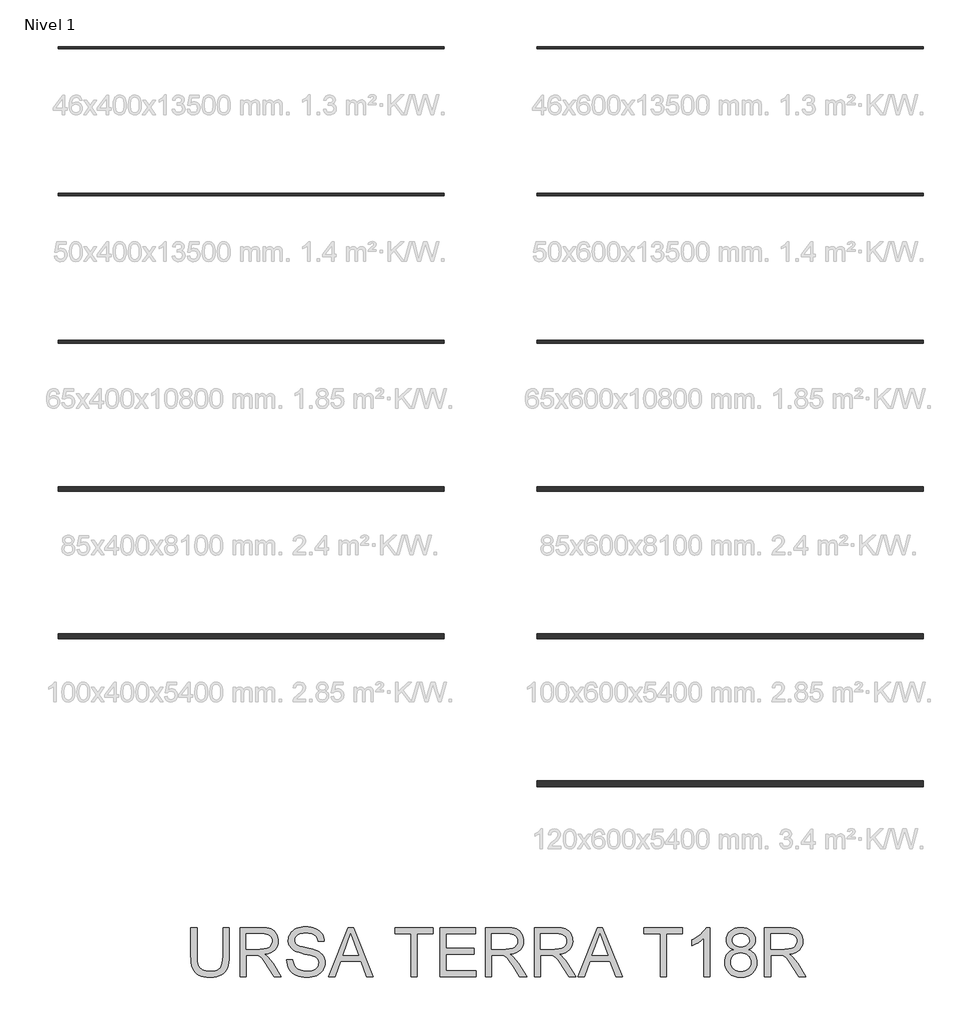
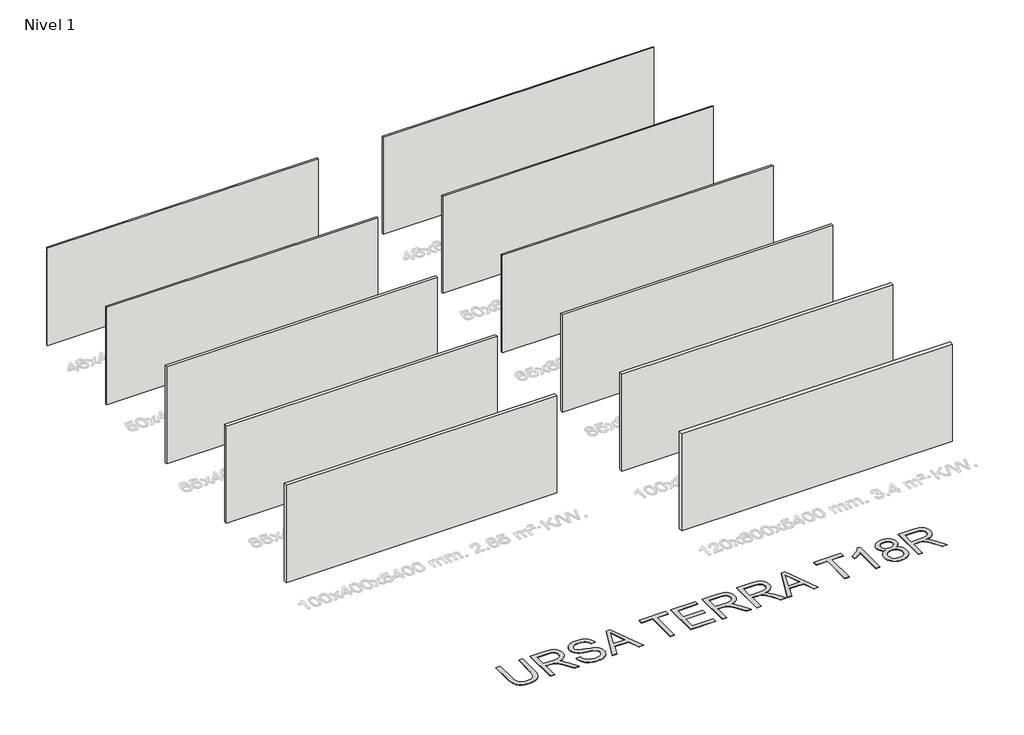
# One storey, part 1 of 12: 11 walls, 1 proxy.
"""IFC4 building model written with IfcOpenShell, lengths in millimetres."""

from ifc_helpers import new_model, si_unit, origin, origin_with_axes, place, context, project, spatial, polyline, outline, extrude, element, save

model = new_model("IFC4")

# Units and contexts
model_context = context("Model", 3, world=origin())
ifc_project = project(units=[si_unit("LENGTHUNIT", "METRE", prefix="MILLI")], contexts=[model_context])

# Site, building, storey
site = spatial("IfcSite", under=ifc_project)
building = spatial("IfcBuilding", under=site)
storey = spatial("IfcBuildingStorey", under=building, Name="Nivel 1", Elevation=0.0)

# Proxy
placement = place(None, origin())
element("IfcBuildingElementProxy", 1, Name="Texto de modelo 2", ObjectType="Texto de modelo 2", at=placement, inside=storey, context=model_context, shape_type="SweptSolid", body=[
    extrude(outline(polyline([(-8258.3419569, -14017.8387308), (-8132.7715692, -14017.8387308), (-8132.7715692, -14597.3755006), (-8134.9022191, -14669.1354823), (-8141.2941687, -14733.0933), (-8151.9474182, -14789.2489537), (-8166.8619674, -14837.6024434), (-8187.3254034, -14879.985515), (-8214.6253131, -14918.229914), (-8248.7616966, -14952.3356407), (-8289.7345538, -14982.3026949), (-8337.58987, -15006.7131981), (-8392.3736304, -15024.1492718), (-8454.0858351, -15034.6109161), (-8522.7264841, -15038.0981308), (-8589.673343, -15035.0631043), (-8650.2282522, -15025.958025), (-8704.3912118, -15010.7828927), (-8752.1622217, -14989.5377074), (-8793.5489462, -14962.5367018), (-8828.5590494, -14930.0941084), (-8857.1925313, -14892.2099271), (-8879.449392, -14848.8841579), (-8896.1343734, -14798.6299446), (-8908.0522172, -14739.9604305), (-8915.2029235, -14672.8756159), (-8917.5864922, -14597.3755006), (-8917.5864922, -14017.8387308), (-8792.0161045, -14017.8387308), (-8792.0161045, -14592.9609166), (-8790.4679345, -14653.66911), (-8785.8234243, -14705.8087187), (-8778.082574, -14749.3797425), (-8767.2453835, -14784.3821815), (-8752.6374026, -14813.3452244), (-8733.584181, -14838.7980599), (-8710.0857185, -14860.7406881), (-8682.1420153, -14879.1731089), (-8650.2895659, -14893.7657614), (-8615.0648648, -14904.1890846), (-8576.4679122, -14910.4430785), (-8534.4987079, -14912.5277431), (-8465.2909076, -14908.4043991), (-8406.7823419, -14896.034367), (-8358.973011, -14875.4176468), (-8339.0805585, -14862.0167788), (-8321.8629147, -14846.5542386), (-8306.9751902, -14828.1601389), (-8294.0724956, -14805.9645918), (-8274.2221963, -14750.1691559), (-8262.3120167, -14679.1679308), (-8258.3419569, -14592.9609166), (-8258.3419569, -14017.8387308)])), origin_with_axes(), (0.0, 0.0, 1.0), 10.0),
    extrude(outline(polyline([(-7913.0233907, -15022.4018323), (-7913.0233907, -14017.8387308), (-7480.1489097, -14017.8387308), (-7418.0151736, -14019.5325209), (-7363.8062287, -14024.6138909), (-7317.5220752, -14033.082841), (-7279.162713, -14044.9393712), (-7246.4978575, -14061.0955221), (-7217.2972242, -14082.4633347), (-7191.5608129, -14109.0428088), (-7169.2886238, -14140.8339446), (-7151.3160555, -14176.1276235), (-7138.4785067, -14213.2147271), (-7130.7759774, -14252.0952555), (-7128.2084677, -14292.7692086), (-7132.4621032, -14344.3646584), (-7145.2230099, -14391.7294653), (-7166.4911878, -14434.8636292), (-7196.2666368, -14473.7671502), (-7234.9325673, -14507.1984265), (-7282.8721898, -14533.9158564), (-7340.0855043, -14553.9194399), (-7406.5725107, -14567.209177), (-7365.1857862, -14594.2485036), (-7335.2034036, -14620.9199483), (-7283.761238, -14681.9270458), (-7233.4227183, -14750.1691559), (-7065.9137832, -15022.4018323), (-7211.8403079, -15022.4018323), (-7342.5610435, -14814.1806231), (-7394.8616005, -14734.7181121), (-7436.984089, -14676.3475022), (-7472.0861627, -14636.1563942), (-7503.3254754, -14611.2323891), (-7532.9093192, -14596.6090798), (-7563.044986, -14587.3200594), (-7635.885621, -14582.9054754), (-7787.453003, -14582.9054754), (-7787.453003, -15022.4018323), (-7913.0233907, -15022.4018323)]), holes=[polyline([(-7787.453003, -14457.3350877), (-7506.3911587, -14457.3350877), (-7425.6717176, -14452.889847), (-7363.0398079, -14439.5541246), (-7337.8552197, -14429.3300709), (-7315.8895989, -14416.4388726), (-7297.1429455, -14400.8805299), (-7281.6152597, -14382.6550427), (-7269.4368328, -14362.6591234), (-7260.7379564, -14341.7894844), (-7255.5186306, -14320.0461257), (-7253.7788554, -14297.4290472), (-7257.0974575, -14265.3160147), (-7267.053264, -14236.176695), (-7283.6462748, -14210.0110881), (-7306.87649, -14186.819194), (-7337.2804041, -14167.827286), (-7375.3945116, -14154.2616374), (-7421.2188126, -14146.1222482), (-7474.7533071, -14143.4091185), (-7787.453003, -14143.4091185), (-7787.453003, -14457.3350877)])]), origin_with_axes(), (0.0, 0.0, 1.0), 10.0),
    extrude(outline(polyline([(-6955.5491846, -14677.0832662), (-6829.9787969, -14677.0832662), (-6824.2306407, -14713.6338753), (-6815.5700854, -14746.7662475), (-6803.997131, -14776.4803828), (-6789.5117774, -14802.7762812), (-6771.3782608, -14826.1827732), (-6748.860817, -14847.228689), (-6721.9594461, -14865.9140286), (-6690.6741481, -14882.2387922), (-6656.1545542, -14895.4902082), (-6619.5502957, -14904.9555054), (-6580.8613725, -14910.6346837), (-6540.0877847, -14912.5277431), (-6470.128892, -14906.7949154), (-6438.4143983, -14899.6288807), (-6408.8765398, -14889.5964321), (-6382.2434162, -14877.0577874), (-6359.2431273, -14862.3731644), (-6339.875673, -14845.5425632), (-6324.1410535, -14826.5659836), (-6311.9626267, -14806.263496), (-6303.2637503, -14785.4551706), (-6298.0444245, -14764.1410075), (-6296.3046492, -14742.3210067), (-6301.5163108, -14700.2904887), (-6317.1512956, -14663.9621417), (-6330.303077, -14647.8443118), (-6348.9117746, -14632.9680836), (-6372.9773884, -14619.3334572), (-6402.4999185, -14606.9404325), (-6468.8106482, -14587.2280889), (-6585.3372701, -14558.9931457), (-6705.358771, -14527.2633237), (-6749.1597211, -14511.9732282), (-6782.1541375, -14497.0663432), (-6815.6850486, -14477.0627597), (-6844.6634199, -14454.8212274), (-6869.0892515, -14430.3417463), (-6888.9625435, -14403.6243164), (-6904.3599378, -14374.9448492), (-6915.3580766, -14344.5792562), (-6921.9569599, -14312.5275374), (-6924.1565877, -14278.7896928), (-6921.4357938, -14241.3960208), (-6913.273412, -14205.2439506), (-6899.6694424, -14170.333482), (-6880.6238849, -14136.6646153), (-6856.3513374, -14105.6092435), (-6827.0663978, -14078.53926), (-6792.7690659, -14055.4546648), (-6753.4593419, -14036.3554579), (-6710.4631337, -14021.3872593), (-6665.1063494, -14010.6956888), (-6617.388989, -14004.2807465), (-6567.3110524, -14002.1424324), (-6512.6805761, -14004.3803812), (-6461.3610377, -14011.0942276), (-6413.3524374, -14022.2839716), (-6368.654775, -14037.9496132), (-6328.095785, -14057.9531967), (-6292.503202, -14082.1567663), (-6261.8770259, -14110.560322), (-6236.2172567, -14143.1638639), (-6215.7231639, -14179.01703), (-6200.5940168, -14217.1694586), (-6190.8298155, -14257.6211496), (-6186.43056, -14300.3721031), (-6312.0009477, -14300.3721031), (-6320.4009199, -14260.3036225), (-6335.0548861, -14225.4468035), (-6355.9628461, -14195.801646), (-6383.1248001, -14171.3681502), (-6417.0465857, -14152.2689432), (-6458.2340408, -14138.6266526), (-6506.6871652, -14130.4412782), (-6562.4059591, -14127.7128201), (-6619.9028493, -14130.4106214), (-6669.030424, -14138.5040253), (-6709.7886834, -14151.9930317), (-6742.1776274, -14170.8776408), (-6766.8563779, -14193.5790256), (-6784.4840568, -14218.5183592), (-6795.0606642, -14245.6956416), (-6798.5862, -14275.1108728), (-6796.0876681, -14300.4180884), (-6788.5920725, -14323.3647278), (-6776.099413, -14343.9507911), (-6758.6096899, -14362.1762783), (-6731.0798539, -14379.4360753), (-6687.7310921, -14396.8798132), (-6628.5634046, -14414.5074921), (-6553.5767912, -14432.3191121), (-6415.1305337, -14465.9803146), (-6366.4168262, -14481.2014322), (-6331.3760661, -14495.3495606), (-6292.8787482, -14516.7940152), (-6259.7923612, -14540.9056143), (-6232.1169053, -14567.6843579), (-6209.8523804, -14597.1302459), (-6192.7382034, -14629.0899942), (-6180.5137913, -14663.4103187), (-6173.179144, -14700.0912193), (-6170.7342616, -14739.1326961), (-6173.547026, -14778.4117632), (-6181.9853192, -14816.5411992), (-6196.0491414, -14853.5210039), (-6215.7384923, -14889.3511774), (-6240.7084827, -14922.644498), (-6270.6142232, -14952.0137439), (-6305.4557139, -14977.4589153), (-6345.2329546, -14998.980012), (-6388.78865, -15016.094189), (-6434.9655046, -15028.3186011), (-6483.7635184, -15035.6532484), (-6535.1826914, -15038.0981308), (-6599.4164206, -15035.4616432), (-6658.208562, -15027.5521803), (-6711.5591155, -15014.3697421), (-6759.4680812, -14995.9143287), (-6802.2266989, -14972.1552832), (-6840.1262086, -14943.0619487), (-6873.1666103, -14908.6343253), (-6901.347904, -14868.872413), (-6924.0492888, -14825.0637988), (-6940.6499638, -14778.4960695), (-6951.1499291, -14729.1692253), (-6955.5491846, -14677.0832662)])), origin_with_axes(), (0.0, 0.0, 1.0), 10.0),
    extrude(outline(polyline([(-6099.3651545, -15022.4018323), (-5698.3737798, -14017.8387308), (-5591.4427465, -14017.8387308), (-5190.4513717, -15022.4018323), (-5323.1341447, -15022.4018323), (-5438.1585818, -14708.4758631), (-5851.9031991, -14708.4758631), (-5966.6823816, -15022.4018323), (-6099.3651545, -15022.4018323)]), holes=[polyline([(-5805.7953223, -14582.9054754), (-5484.0212039, -14582.9054754), (-5574.5201747, -14335.9340293), (-5644.9082631, -14143.4091185), (-5707.4482023, -14314.351619), (-5805.7953223, -14582.9054754)])]), origin_with_axes(), (0.0, 0.0, 1.0), 10.0),
    extrude(outline(polyline([(-4412.7488339, -15022.4018323), (-4412.7488339, -14143.4091185), (-4742.3711016, -14143.4091185), (-4742.3711016, -14017.8387308), (-3957.5561786, -14017.8387308), (-3957.5561786, -14143.4091185), (-4287.1784463, -14143.4091185), (-4287.1784463, -15022.4018323), (-4412.7488339, -15022.4018323)])), origin_with_axes(), (0.0, 0.0, 1.0), 10.0),
    extrude(outline(polyline([(-3816.2894924, -15022.4018323), (-3816.2894924, -14017.8387308), (-3094.2597632, -14017.8387308), (-3094.2597632, -14143.4091185), (-3690.7191047, -14143.4091185), (-3690.7191047, -14441.6387893), (-3125.6523601, -14441.6387893), (-3125.6523601, -14567.209177), (-3690.7191047, -14567.209177), (-3690.7191047, -14896.8314446), (-3078.5634648, -14896.8314446), (-3078.5634648, -15022.4018323), (-3816.2894924, -15022.4018323)])), origin_with_axes(), (0.0, 0.0, 1.0), 10.0),
    extrude(outline(polyline([(-2890.2078832, -15022.4018323), (-2890.2078832, -14017.8387308), (-2457.3334022, -14017.8387308), (-2395.1996661, -14019.5325209), (-2340.9907213, -14024.6138909), (-2294.7065678, -14033.082841), (-2256.3472055, -14044.9393712), (-2223.6823501, -14061.0955221), (-2194.4817167, -14082.4633347), (-2168.7453054, -14109.0428088), (-2146.4731163, -14140.8339446), (-2128.500548, -14176.1276235), (-2115.6629992, -14213.2147271), (-2107.9604699, -14252.0952555), (-2105.3929602, -14292.7692086), (-2109.6465958, -14344.3646584), (-2122.4075025, -14391.7294653), (-2143.6756803, -14434.8636292), (-2173.4511293, -14473.7671502), (-2212.1170598, -14507.1984265), (-2260.0566823, -14533.9158564), (-2317.2699968, -14553.9194399), (-2383.7570032, -14567.209177), (-2342.3702788, -14594.2485036), (-2312.3878961, -14620.9199483), (-2260.9457305, -14681.9270458), (-2210.6072108, -14750.1691559), (-2043.0982757, -15022.4018323), (-2189.0248004, -15022.4018323), (-2319.745536, -14814.1806231), (-2372.046093, -14734.7181121), (-2414.1685815, -14676.3475022), (-2449.2706552, -14636.1563942), (-2480.5099679, -14611.2323891), (-2510.0938117, -14596.6090798), (-2540.2294785, -14587.3200594), (-2613.0701135, -14582.9054754), (-2764.6374955, -14582.9054754), (-2764.6374955, -15022.4018323), (-2890.2078832, -15022.4018323)]), holes=[polyline([(-2764.6374955, -14457.3350877), (-2483.5756512, -14457.3350877), (-2402.8562101, -14452.889847), (-2340.2243004, -14439.5541246), (-2315.0397122, -14429.3300709), (-2293.0740914, -14416.4388726), (-2274.3274381, -14400.8805299), (-2258.7997522, -14382.6550427), (-2246.6213253, -14362.6591234), (-2237.922449, -14341.7894844), (-2232.7031231, -14320.0461257), (-2230.9633479, -14297.4290472), (-2234.28195, -14265.3160147), (-2244.2377565, -14236.176695), (-2260.8307674, -14210.0110881), (-2284.0609825, -14186.819194), (-2314.4648966, -14167.827286), (-2352.5790041, -14154.2616374), (-2398.4033051, -14146.1222482), (-2451.9377996, -14143.4091185), (-2764.6374955, -14143.4091185), (-2764.6374955, -14457.3350877)])]), origin_with_axes(), (0.0, 0.0, 1.0), 10.0),
    extrude(outline(polyline([(-1885.6447817, -15022.4018323), (-1885.6447817, -14017.8387308), (-1452.7703007, -14017.8387308), (-1390.6365646, -14019.5325209), (-1336.4276198, -14024.6138909), (-1290.1434663, -14033.082841), (-1251.784104, -14044.9393712), (-1219.1192486, -14061.0955221), (-1189.9186152, -14082.4633347), (-1164.1822039, -14109.0428088), (-1141.9100148, -14140.8339446), (-1123.9374465, -14176.1276235), (-1111.0998977, -14213.2147271), (-1103.3973685, -14252.0952555), (-1100.8298587, -14292.7692086), (-1105.0834943, -14344.3646584), (-1117.844401, -14391.7294653), (-1139.1125788, -14434.8636292), (-1168.8880278, -14473.7671502), (-1207.5539583, -14507.1984265), (-1255.4935808, -14533.9158564), (-1312.7068953, -14553.9194399), (-1379.1939017, -14567.209177), (-1337.8071773, -14594.2485036), (-1307.8247946, -14620.9199483), (-1256.382629, -14681.9270458), (-1206.0441093, -14750.1691559), (-1038.5351742, -15022.4018323), (-1184.4616989, -15022.4018323), (-1315.1824346, -14814.1806231), (-1367.4829915, -14734.7181121), (-1409.60548, -14676.3475022), (-1444.7075537, -14636.1563942), (-1475.9468664, -14611.2323891), (-1505.5307102, -14596.6090798), (-1535.666377, -14587.3200594), (-1608.507012, -14582.9054754), (-1760.0743941, -14582.9054754), (-1760.0743941, -15022.4018323), (-1885.6447817, -15022.4018323)]), holes=[polyline([(-1760.0743941, -14457.3350877), (-1479.0125497, -14457.3350877), (-1398.2931086, -14452.889847), (-1335.6611989, -14439.5541246), (-1310.4766107, -14429.3300709), (-1288.5109899, -14416.4388726), (-1269.7643366, -14400.8805299), (-1254.2366507, -14382.6550427), (-1242.0582238, -14362.6591234), (-1233.3593475, -14341.7894844), (-1228.1400217, -14320.0461257), (-1226.4002464, -14297.4290472), (-1229.7188485, -14265.3160147), (-1239.674655, -14236.176695), (-1256.2676659, -14210.0110881), (-1279.497881, -14186.819194), (-1309.9017951, -14167.827286), (-1348.0159026, -14154.2616374), (-1393.8402036, -14146.1222482), (-1447.3746982, -14143.4091185), (-1760.0743941, -14143.4091185), (-1760.0743941, -14457.3350877)])]), origin_with_axes(), (0.0, 0.0, 1.0), 10.0),
    extrude(outline(polyline([(-998.0681547, -15022.4018323), (-597.07678, -14017.8387308), (-490.1457467, -14017.8387308), (-89.154372, -15022.4018323), (-221.8371449, -15022.4018323), (-336.861582, -14708.4758631), (-750.6061993, -14708.4758631), (-865.3853818, -15022.4018323), (-998.0681547, -15022.4018323)]), holes=[polyline([(-704.4983226, -14582.9054754), (-382.7242041, -14582.9054754), (-473.2231749, -14335.9340293), (-543.6112633, -14143.4091185), (-606.1512025, -14314.351619), (-704.4983226, -14582.9054754)])]), origin_with_axes(), (0.0, 0.0, 1.0), 10.0),
    extrude(outline(polyline([(688.5481658, -15022.4018323), (688.5481658, -14143.4091185), (358.9258982, -14143.4091185), (358.9258982, -14017.8387308), (1143.7408212, -14017.8387308), (1143.7408212, -14143.4091185), (814.1185535, -14143.4091185), (814.1185535, -15022.4018323), (688.5481658, -15022.4018323)])), origin_with_axes(), (0.0, 0.0, 1.0), 10.0),
    extrude(outline(polyline([(1708.8075658, -15022.4018323), (1583.2371781, -15022.4018323), (1583.2371781, -14239.5489466), (1530.8139938, -14281.9473465), (1464.2886663, -14324.2844328), (1394.4524009, -14361.2872302), (1332.0964027, -14387.6827633), (1332.0964027, -14268.9795062), (1383.0557233, -14243.427036), (1430.7194343, -14215.3300486), (1475.0875357, -14184.6885441), (1516.1600277, -14151.5025224), (1552.7106367, -14117.3048253), (1583.5130896, -14083.6282943), (1608.5673863, -14050.4729295), (1627.8735269, -14017.8387308), (1708.8075658, -14017.8387308), (1708.8075658, -15022.4018323)])), origin_with_axes(), (0.0, 0.0, 1.0), 10.0),
    extrude(outline(polyline([(2189.9972155, -14469.1073116), (2153.8758021, -14454.0241498), (2122.7667809, -14435.997932), (2096.6701518, -14415.0286583), (2075.585915, -14391.1163286), (2059.3301293, -14364.4908692), (2047.7188539, -14335.3822063), (2040.7520886, -14303.79034), (2038.4298335, -14269.7152702), (2043.4882109, -14218.5030308), (2058.6633432, -14171.5520912), (2083.9552304, -14128.8624513), (2119.3638724, -14090.4341112), (2163.1878151, -14058.6736323), (2213.7256042, -14035.9875759), (2270.9772397, -14022.3759421), (2334.9427216, -14017.8387308), (2399.2147718, -14022.483241), (2456.895603, -14036.4167716), (2507.9852151, -14059.6393225), (2552.4836081, -14092.1508939), (2588.5360436, -14131.3303264), (2614.2877833, -14174.5564608), (2629.7388271, -14221.8292972), (2634.889175, -14273.1488355), (2632.5975767, -14306.0206246), (2625.7227819, -14336.7004502), (2614.2647906, -14365.1883122), (2598.2236028, -14391.4842106), (2577.5225764, -14415.2355919), (2552.0850692, -14436.0899025), (2521.9110814, -14454.0471424), (2487.0006129, -14469.1073116), (2528.2723743, -14486.6660127), (2564.2864888, -14508.9305376), (2595.0429564, -14535.9008863), (2620.5417772, -14567.577059), (2640.5530249, -14603.2539483), (2654.8467732, -14642.2264472), (2663.4230222, -14684.4945556), (2666.2817719, -14730.0582735), (2660.6102578, -14792.6901832), (2643.5957155, -14850.1104313), (2615.2381451, -14902.3190177), (2575.5375464, -14949.3159426), (2551.9547777, -14970.124268), (2526.5785842, -14988.15815), (2499.4089661, -15003.4175885), (2470.4459231, -15015.9025838), (2407.1395631, -15032.549244), (2336.6595042, -15038.0981308), (2266.1794453, -15032.5262514), (2202.8730853, -15015.8106133), (2173.9100424, -15003.2738846), (2146.7404242, -14987.9512163), (2121.3642308, -14969.8426083), (2097.781462, -14948.9480606), (2058.0808634, -14901.6215748), (2029.7232929, -14848.7921874), (2012.7087507, -14790.4598986), (2007.0372366, -14726.6247082), (2010.0109494, -14678.9839898), (2018.9320877, -14635.3899734), (2033.8006517, -14595.8426589), (2054.6166413, -14560.3420464), (2080.9202039, -14529.5319293), (2112.2514872, -14504.0561011), (2148.610491, -14483.9145619), (2189.9972155, -14469.1073116)]), holes=[polyline([(2132.6076242, -14722.2101243), (2137.8499427, -14770.2493815), (2153.576898, -14816.755797), (2166.0772216, -14838.3305432), (2182.6089188, -14857.314787), (2203.1719894, -14873.7085284), (2227.7664337, -14887.5117674), (2281.845087, -14906.2737492), (2337.6405229, -14912.5277431), (2383.0432925, -14909.2397978), (2423.1117731, -14899.3759618), (2457.8459648, -14882.9362351), (2487.2458676, -14859.9206178), (2510.6370311, -14831.8312946), (2527.3450051, -14800.1704504), (2537.3697894, -14764.9380852), (2540.7113842, -14726.1341989), (2537.2624905, -14686.7095117), (2526.9158094, -14650.8410172), (2509.6713409, -14618.5287153), (2485.529085, -14589.772606), (2455.3321045, -14566.1668447), (2419.9234625, -14549.3055865), (2379.3031588, -14539.1888317), (2333.4711936, -14535.81658), (2288.7352102, -14539.1428464), (2249.1955599, -14549.1216455), (2214.8522428, -14565.7529774), (2185.7052589, -14589.036842), (2162.4750437, -14617.3177704), (2145.8820329, -14648.9402936), (2135.9262264, -14683.9044115), (2132.6076242, -14722.2101243)]), polyline([(2164.0002212, -14273.3940902), (2166.7823288, -14302.1808563), (2175.1286515, -14328.2085074), (2189.0391895, -14351.4770436), (2208.5139426, -14371.9864649), (2233.3076562, -14388.7250956), (2263.1750757, -14400.6812605), (2298.116201, -14407.8549594), (2338.1310322, -14410.2461924), (2377.1571805, -14407.8702878), (2411.3395493, -14400.7425742), (2440.6781384, -14388.8630514), (2465.1729479, -14372.2317195), (2484.4867526, -14352.151494), (2498.2823275, -14329.9252901), (2506.5596723, -14305.5531079), (2509.3187873, -14279.0349474), (2506.4677018, -14251.4821188), (2497.9144455, -14226.2132243), (2483.6590181, -14203.2282638), (2463.7014199, -14182.5272373), (2438.6547874, -14165.4130604), (2409.1322573, -14153.1886482), (2375.1338296, -14145.854001), (2336.6595042, -14143.4091185), (2297.8862748, -14145.8003515), (2263.7268987, -14152.9740504), (2234.181376, -14164.9302152), (2209.2497066, -14181.668846), (2189.4530567, -14201.7490716), (2175.3125925, -14223.7300208), (2166.828314, -14247.6116937), (2164.0002212, -14273.3940902)])]), origin_with_axes(), (0.0, 0.0, 1.0), 10.0),
    extrude(outline(polyline([(2823.2447565, -15022.4018323), (2823.2447565, -14017.8387308), (3256.1192375, -14017.8387308), (3318.2529737, -14019.5325209), (3372.4619185, -14024.6138909), (3418.746072, -14033.082841), (3457.1054342, -14044.9393712), (3489.7702897, -14061.0955221), (3518.9709231, -14082.4633347), (3544.7073343, -14109.0428088), (3566.9795234, -14140.8339446), (3584.9520917, -14176.1276235), (3597.7896405, -14213.2147271), (3605.4921698, -14252.0952555), (3608.0596796, -14292.7692086), (3603.806044, -14344.3646584), (3591.0451373, -14391.7294653), (3569.7769594, -14434.8636292), (3540.0015105, -14473.7671502), (3501.3355799, -14507.1984265), (3453.3959574, -14533.9158564), (3396.182643, -14553.9194399), (3329.6956366, -14567.209177), (3371.082361, -14594.2485036), (3401.0647436, -14620.9199483), (3452.5069093, -14681.9270458), (3502.8454289, -14750.1691559), (3670.3543641, -15022.4018323), (3524.4278393, -15022.4018323), (3393.7071037, -14814.1806231), (3341.4065467, -14734.7181121), (3299.2840583, -14676.3475022), (3264.1819846, -14636.1563942), (3232.9426718, -14611.2323891), (3203.358828, -14596.6090798), (3173.2231613, -14587.3200594), (3100.3825262, -14582.9054754), (2948.8151442, -14582.9054754), (2948.8151442, -15022.4018323), (2823.2447565, -15022.4018323)]), holes=[polyline([(2948.8151442, -14457.3350877), (3229.8769885, -14457.3350877), (3310.5964296, -14452.889847), (3373.2283393, -14439.5541246), (3398.4129276, -14429.3300709), (3420.3785484, -14416.4388726), (3439.1252017, -14400.8805299), (3454.6528876, -14382.6550427), (3466.8313145, -14362.6591234), (3475.5301908, -14341.7894844), (3480.7495166, -14320.0461257), (3482.4892919, -14297.4290472), (3479.1706897, -14265.3160147), (3469.2148832, -14236.176695), (3452.6218724, -14210.0110881), (3429.3916572, -14186.819194), (3398.9877432, -14167.827286), (3360.8736356, -14154.2616374), (3315.0493346, -14146.1222482), (3261.5148401, -14143.4091185), (2948.8151442, -14143.4091185), (2948.8151442, -14457.3350877)])]), origin_with_axes(), (0.0, 0.0, 1.0), 10.0),
])

# Walls
element("IfcWall", 2, ObjectType="Panel de lana mineral semirrígido, URSA TERRA T18R de URSA. 46x400x13500 mm. 1.3 m²·K/W. No hidrófilo, sin revestimiento. En rollo.", at=placement, inside=storey, context=model_context, shape_type="SweptSolid", body=[
    extrude(outline(polyline([(-3731.2417232, 3954.3831431), (-11631.2417232, 3954.3831431), (-11631.2417232, 4000.3831431), (-3731.2417232, 4000.3831431), (-3731.2417232, 3954.3831431)])), origin_with_axes(), (0.0, 0.0, 1.0), 3000.0),
])
element("IfcWall", 3, ObjectType="Panel de lana mineral semirrígido, URSA TERRA T18R de URSA. 50x400x13500 mm. 1.4 m²·K/W. No hidrófilo, sin revestimiento. En rollo.", at=placement, inside=storey, context=model_context, shape_type="SweptSolid", body=[
    extrude(outline(polyline([(-3731.2417232, 950.3831431), (-11631.2417232, 950.3831431), (-11631.2417232, 1000.3831431), (-3731.2417232, 1000.3831431), (-3731.2417232, 950.3831431)])), origin_with_axes(), (0.0, 0.0, 1.0), 3000.0),
])
element("IfcWall", 4, ObjectType="Panel de lana mineral semirrígido, URSA TERRA T18R de URSA. 46x600x13500 mm. 1.3 m²·K/W. No hidrófilo, sin revestimiento. En rollo.", at=placement, inside=storey, context=model_context, shape_type="SweptSolid", body=[
    extrude(outline(polyline([(6068.7582768, 3954.3831431), (-1831.2417232, 3954.3831431), (-1831.2417232, 4000.3831431), (6068.7582768, 4000.3831431), (6068.7582768, 3954.3831431)])), origin_with_axes(), (0.0, 0.0, 1.0), 3000.0),
])
element("IfcWall", 5, ObjectType="Panel de lana mineral semirrígido, URSA TERRA T18R de URSA. 65x400x10800 mm. 1.85 m²·K/W. No hidrófilo, sin revestimiento. En rollo.", at=placement, inside=storey, context=model_context, shape_type="SweptSolid", body=[
    extrude(outline(polyline([(-3731.2417232, -2068.6168569), (-11631.2417232, -2068.6168569), (-11631.2417232, -2003.6168569), (-3731.2417232, -2003.6168569), (-3731.2417232, -2068.6168569)])), origin_with_axes(), (0.0, 0.0, 1.0), 3000.0),
])
element("IfcWall", 6, ObjectType="Panel de lana mineral semirrígido, URSA TERRA T18R de URSA. 85x400x8100 mm. 2.4 m²·K/W. No hidrófilo, sin revestimiento. En rollo.", at=placement, inside=storey, context=model_context, shape_type="SweptSolid", body=[
    extrude(outline(polyline([(-3731.2417232, -5092.6168569), (-11631.2417232, -5092.6168569), (-11631.2417232, -5007.6168569), (-3731.2417232, -5007.6168569), (-3731.2417232, -5092.6168569)])), origin_with_axes(), (0.0, 0.0, 1.0), 3000.0),
])
element("IfcWall", 7, ObjectType="Panel de lana mineral semirrígido, URSA TERRA T18R de URSA. 100x400x5400 mm. 2.85 m²·K/W. No hidrófilo, sin revestimiento. En rollo.", at=placement, inside=storey, context=model_context, shape_type="SweptSolid", body=[
    extrude(outline(polyline([(-3731.2417232, -8111.6168569), (-11631.2417232, -8111.6168569), (-11631.2417232, -8011.6168569), (-3731.2417232, -8011.6168569), (-3731.2417232, -8111.6168569)])), origin_with_axes(), (0.0, 0.0, 1.0), 3000.0),
])
element("IfcWall", 8, ObjectType="Panel de lana mineral semirrígido, URSA TERRA T18R de URSA. 50x600x13500 mm. 1.4 m²·K/W. No hidrófilo, sin revestimiento. En rollo.", at=placement, inside=storey, context=model_context, shape_type="SweptSolid", body=[
    extrude(outline(polyline([(6068.7582768, 950.3831431), (-1831.2417232, 950.3831431), (-1831.2417232, 1000.3831431), (6068.7582768, 1000.3831431), (6068.7582768, 950.3831431)])), origin_with_axes(), (0.0, 0.0, 1.0), 3000.0),
])
element("IfcWall", 9, ObjectType="Panel de lana mineral semirrígido, URSA TERRA T18R de URSA. 65x600x10800 mm. 1.85 m²·K/W. No hidrófilo, sin revestimiento. En rollo.", at=placement, inside=storey, context=model_context, shape_type="SweptSolid", body=[
    extrude(outline(polyline([(6068.7582768, -2068.6168569), (-1831.2417232, -2068.6168569), (-1831.2417232, -2003.6168569), (6068.7582768, -2003.6168569), (6068.7582768, -2068.6168569)])), origin_with_axes(), (0.0, 0.0, 1.0), 3000.0),
])
element("IfcWall", 10, ObjectType="Panel de lana mineral semirrígido, URSA TERRA T18R de URSA. 85x600x8100 mm. 2.4 m²·K/W. No hidrófilo, sin revestimiento. En rollo.", at=placement, inside=storey, context=model_context, shape_type="SweptSolid", body=[
    extrude(outline(polyline([(6068.7582768, -5092.6168569), (-1831.2417232, -5092.6168569), (-1831.2417232, -5007.6168569), (6068.7582768, -5007.6168569), (6068.7582768, -5092.6168569)])), origin_with_axes(), (0.0, 0.0, 1.0), 3000.0),
])
element("IfcWall", 11, ObjectType="Panel de lana mineral semirrígido, URSA TERRA T18R de URSA. 100x600x5400 mm. 2.85 m²·K/W. No hidrófilo, sin revestimiento. En rollo.", at=placement, inside=storey, context=model_context, shape_type="SweptSolid", body=[
    extrude(outline(polyline([(6068.7582768, -8111.6168569), (-1831.2417232, -8111.6168569), (-1831.2417232, -8011.6168569), (6068.7582768, -8011.6168569), (6068.7582768, -8111.6168569)])), origin_with_axes(), (0.0, 0.0, 1.0), 3000.0),
])
element("IfcWall", 12, ObjectType="Panel de lana mineral semirrígido, URSA TERRA T18R de URSA. 120x600x5400 mm. 3.4 m²·K/W. No hidrófilo, sin revestimiento. En rollo.", at=placement, inside=storey, context=model_context, shape_type="SweptSolid", body=[
    extrude(outline(polyline([(6068.7582768, -11135.6168569), (-1831.2417232, -11135.6168569), (-1831.2417232, -11015.6168569), (6068.7582768, -11015.6168569), (6068.7582768, -11135.6168569)])), origin_with_axes(), (0.0, 0.0, 1.0), 3000.0),
])

save(model, "model.ifc")
